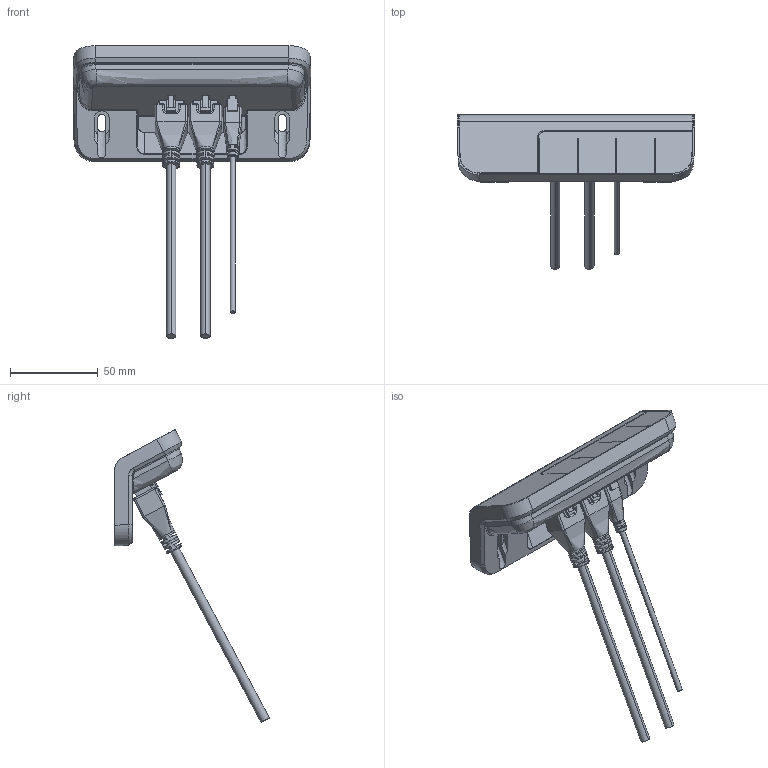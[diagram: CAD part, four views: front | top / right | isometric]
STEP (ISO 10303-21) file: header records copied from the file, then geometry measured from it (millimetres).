
FILE_DESCRIPTION (( 'STEP AP203' ), '1' );
FILE_NAME ('3D_TCH2P.STEP', '2023-12-26T01:50:26', ( '' ), ( '' ), 'SwSTEP 2.0', 'SolidWorks 2015', '' );
FILE_SCHEMA (( 'CONFIG_CONTROL_DESIGN' ));
Products named in the file (1): 3D_TCH2P
Bounding box: 135.9 x 88.26 x 167.09 mm (x, y, z)
Volume: 71570.8 mm3; surface area: 73107.2 mm2
Topology: 8 solids, 8 shells, 1699 faces, 4596 edges, 2960 vertices
Faces by surface type: plane 1269, cylinder 252, bspline 132, torus 20, cone 14, sphere 12
Entity records: 59759 total; most frequent: CARTESIAN_POINT 18505, ORIENTED_EDGE 9132, DIRECTION 7596, EDGE_CURVE 4566, LINE 3576, VECTOR 3576, VERTEX_POINT 2960, AXIS2_PLACEMENT_3D 2010
